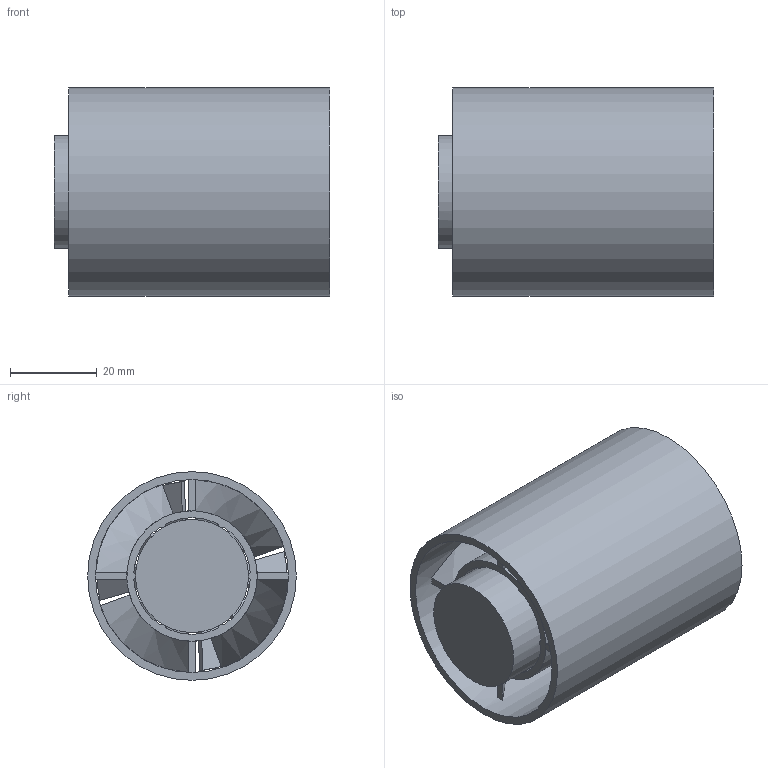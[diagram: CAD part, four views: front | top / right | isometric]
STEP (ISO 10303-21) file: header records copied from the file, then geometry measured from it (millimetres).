
FILE_DESCRIPTION(/* description */ (''),/* implementation_level */ '2;1');
FILE_NAME(/* name */ 'Fan D481P-012024KM-4.stp',/* time_stamp */ '2021-08-17T10:35:57+02:00',/* author */ (''),/* organization */ (''),/* preprocessor_version */ 'ST-DEVELOPER v16.7',/* originating_system */ 'SIEMENS PLM Software NX 1946',/* authorisation */ '');
FILE_SCHEMA (('AUTOMOTIVE_DESIGN { 1 0 10303 214 3 1 1 1 }'));
Length unit declared in the file: millimetre
Products named in the file (1): MIG_4464_1-Fan D481P-012024KM-4 _-_
Bounding box: 63.3 x 48 x 48 mm (x, y, z)
Volume: 50429.8 mm3; surface area: 34830.8 mm2
Topology: 1 solids, 1 shells, 119 faces, 339 edges, 220 vertices
Faces by surface type: plane 59, cylinder 48, bspline 12
Full cylindrical faces by diameter (mm): 4 x2, 6 x2, 20 x1, 26 x1, 30 x1, 44.4 x1, 48 x1
Entity records: 4013 total; most frequent: CARTESIAN_POINT 921, DIRECTION 694, ORIENTED_EDGE 640, EDGE_CURVE 320, AXIS2_PLACEMENT_3D 307, VERTEX_POINT 212, EDGE_LOOP 146, ADVANCED_FACE 118
